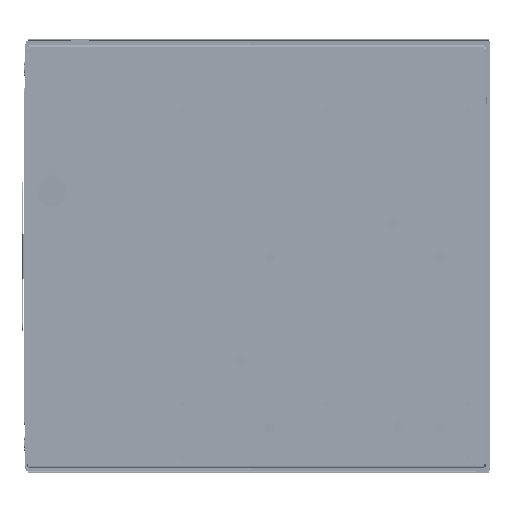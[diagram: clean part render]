
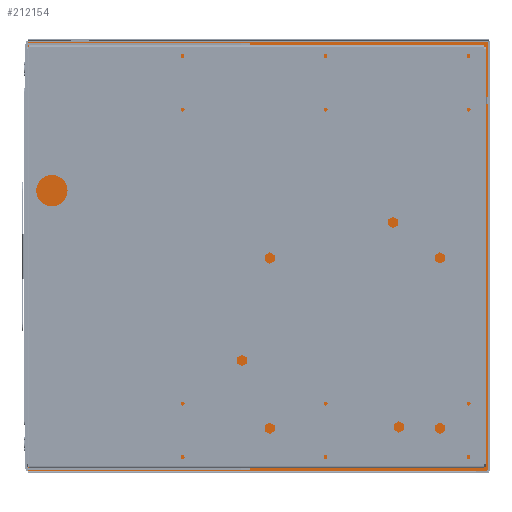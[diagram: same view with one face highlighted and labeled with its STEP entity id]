
A CAD part, front view. The second image highlights one B-rep face of the part: STEP entity #212154.
In plain terms, the highlighted planar face has unit normal (-0.052, -0.999, 0) as drawn and (0, 0, -1) by its records, which use the part's own axes.
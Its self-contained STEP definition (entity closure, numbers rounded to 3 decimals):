
#2012 = LINE ( 'NONE', #268050, #447373 ) ;
#3401 = CARTESIAN_POINT ( 'NONE',  ( 240.647, 0.803, 0. ) ) ;
#12010 = CARTESIAN_POINT ( 'NONE',  ( 240.647, 0., 0. ) ) ;
#23949 = ORIENTED_EDGE ( 'NONE', *, *, #658560, .F. ) ;
#24736 = CARTESIAN_POINT ( 'NONE',  ( 214., 224.775, 0. ) ) ;
#43531 = CARTESIAN_POINT ( 'NONE',  ( -240.647, 0.803, 0. ) ) ;
#51641 = CARTESIAN_POINT ( 'NONE',  ( -206., 224.775, 0. ) ) ;
#56136 = CARTESIAN_POINT ( 'NONE',  ( 214., 224.775, 0. ) ) ;
#70482 = DIRECTION ( 'NONE',  ( 0., 1., 0. ) ) ;
#74239 = DIRECTION ( 'NONE',  ( 0., 0., -1. ) ) ;
#81446 = AXIS2_PLACEMENT_3D ( 'NONE', #422086, #74239, #480400 ) ;
#83236 = DIRECTION ( 'NONE',  ( -1., 0., 0. ) ) ;
#84616 = VERTEX_POINT ( 'NONE', #748317 ) ;
#114459 = CARTESIAN_POINT ( 'NONE',  ( -216., 224.775, 0. ) ) ;
#114520 = DIRECTION ( 'NONE',  ( -1., 0., 0. ) ) ;
#126494 = CARTESIAN_POINT ( 'NONE',  ( -240.647, 517.04, 0. ) ) ;
#135730 = FACE_BOUND ( 'NONE', #517757, .T. ) ;
#138388 = EDGE_CURVE ( 'NONE', #191330, #503668, #724343, .T. ) ;
#139674 = ORIENTED_EDGE ( 'NONE', *, *, #553369, .F. ) ;
#145560 = ORIENTED_EDGE ( 'NONE', *, *, #138388, .F. ) ;
#147036 = PLANE ( 'NONE',  #348084 ) ;
#154502 = CARTESIAN_POINT ( 'NONE',  ( -240.647, 516.277, 0. ) ) ;
#164718 = ORIENTED_EDGE ( 'NONE', *, *, #211913, .F. ) ;
#172939 = DIRECTION ( 'NONE',  ( -1., 0., 0. ) ) ;
#184898 = DIRECTION ( 'NONE',  ( 0., -1., 0. ) ) ;
#191330 = VERTEX_POINT ( 'NONE', #563352 ) ;
#198159 = LINE ( 'NONE', #126494, #642937 ) ;
#211913 = EDGE_CURVE ( 'NONE', #438600, #589167, #679514, .T. ) ;
#212154 = ADVANCED_FACE ( 'NONE', ( #426405, #135730, #753258 ), #147036, .T. ) ;
#239321 = ORIENTED_EDGE ( 'NONE', *, *, #371929, .F. ) ;
#263796 = DIRECTION ( 'NONE',  ( 0., 0., -1. ) ) ;
#268050 = CARTESIAN_POINT ( 'NONE',  ( 240.647, 516.277, 0. ) ) ;
#291771 = CIRCLE ( 'NONE', #312643, 10. ) ;
#311241 = VERTEX_POINT ( 'NONE', #154502 ) ;
#312643 = AXIS2_PLACEMENT_3D ( 'NONE', #56136, #462337, #114520 ) ;
#339597 = CARTESIAN_POINT ( 'NONE',  ( 240.647, 516.277, 0. ) ) ;
#348084 = AXIS2_PLACEMENT_3D ( 'NONE', #611259, #263796, #669764 ) ;
#352665 = CARTESIAN_POINT ( 'NONE',  ( -226., 224.775, 0. ) ) ;
#367817 = EDGE_CURVE ( 'NONE', #589167, #438600, #575256, .T. ) ;
#371602 = VECTOR ( 'NONE', #70482, 1000. ) ;
#371929 = EDGE_CURVE ( 'NONE', #503668, #449856, #662058, .T. ) ;
#397640 = VECTOR ( 'NONE', #403992, 1000. ) ;
#403992 = DIRECTION ( 'NONE',  ( 1., 0., 0. ) ) ;
#422086 = CARTESIAN_POINT ( 'NONE',  ( -216., 224.775, 0. ) ) ;
#426405 = FACE_BOUND ( 'NONE', #454453, .T. ) ;
#431028 = DIRECTION ( 'NONE',  ( 0., 0., -1. ) ) ;
#438600 = VERTEX_POINT ( 'NONE', #352665 ) ;
#447373 = VECTOR ( 'NONE', #732302, 1000. ) ;
#449856 = VERTEX_POINT ( 'NONE', #339597 ) ;
#454453 = EDGE_LOOP ( 'NONE', ( #716514, #164718 ) ) ;
#462337 = DIRECTION ( 'NONE',  ( 0., 0., -1. ) ) ;
#480400 = DIRECTION ( 'NONE',  ( -1., 0., 0. ) ) ;
#498134 = CIRCLE ( 'NONE', #540666, 10. ) ;
#503668 = VERTEX_POINT ( 'NONE', #3401 ) ;
#517757 = EDGE_LOOP ( 'NONE', ( #139674, #547265 ) ) ;
#520597 = DIRECTION ( 'NONE',  ( 0., 0., -1. ) ) ;
#534395 = EDGE_LOOP ( 'NONE', ( #239321, #145560, #23949, #656119 ) ) ;
#540666 = AXIS2_PLACEMENT_3D ( 'NONE', #24736, #431028, #83236 ) ;
#547265 = ORIENTED_EDGE ( 'NONE', *, *, #731908, .F. ) ;
#549245 = VERTEX_POINT ( 'NONE', #653474 ) ;
#553369 = EDGE_CURVE ( 'NONE', #549245, #84616, #291771, .T. ) ;
#557038 = AXIS2_PLACEMENT_3D ( 'NONE', #114459, #520597, #172939 ) ;
#563352 = CARTESIAN_POINT ( 'NONE',  ( -240.647, 0.803, 0. ) ) ;
#575256 = CIRCLE ( 'NONE', #81446, 10. ) ;
#589167 = VERTEX_POINT ( 'NONE', #51641 ) ;
#611259 = CARTESIAN_POINT ( 'NONE',  ( -241.409, 517., 0. ) ) ;
#642937 = VECTOR ( 'NONE', #184898, 1000. ) ;
#653474 = CARTESIAN_POINT ( 'NONE',  ( 224., 224.775, 0. ) ) ;
#656119 = ORIENTED_EDGE ( 'NONE', *, *, #663073, .F. ) ;
#658560 = EDGE_CURVE ( 'NONE', #311241, #191330, #198159, .T. ) ;
#662058 = LINE ( 'NONE', #12010, #371602 ) ;
#663073 = EDGE_CURVE ( 'NONE', #449856, #311241, #2012, .T. ) ;
#669764 = DIRECTION ( 'NONE',  ( -1., 0., 0. ) ) ;
#679514 = CIRCLE ( 'NONE', #557038, 10. ) ;
#716514 = ORIENTED_EDGE ( 'NONE', *, *, #367817, .F. ) ;
#724343 = LINE ( 'NONE', #43531, #397640 ) ;
#731908 = EDGE_CURVE ( 'NONE', #84616, #549245, #498134, .T. ) ;
#732302 = DIRECTION ( 'NONE',  ( -1., 0., 0. ) ) ;
#748317 = CARTESIAN_POINT ( 'NONE',  ( 204., 224.775, 0. ) ) ;
#753258 = FACE_OUTER_BOUND ( 'NONE', #534395, .T. ) ;
